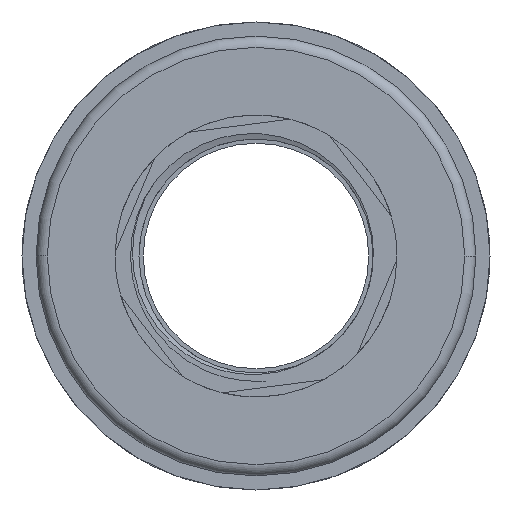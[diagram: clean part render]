
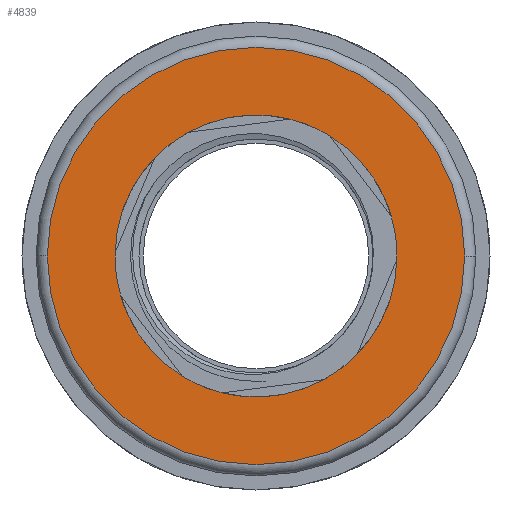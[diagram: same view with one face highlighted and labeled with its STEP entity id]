
A CAD part, left-side view. The second image highlights one B-rep face of the part: STEP entity #4839.
In plain terms, the highlighted planar face has unit normal (-1, 0, 0).
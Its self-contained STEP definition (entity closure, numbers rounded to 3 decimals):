
#12 = FACE_BOUND ( 'NONE', #1161, .T. ) ;
#57 = CIRCLE ( 'NONE', #2167, 37. ) ;
#140 = EDGE_CURVE ( 'NONE', #262, #6435, #57, .T. ) ;
#262 = VERTEX_POINT ( 'NONE', #4829 ) ;
#599 = VERTEX_POINT ( 'NONE', #4043 ) ;
#665 = DIRECTION ( 'NONE',  ( 0., -1., 0. ) ) ;
#763 = EDGE_CURVE ( 'NONE', #599, #1709, #3586, .T. ) ;
#1044 = CARTESIAN_POINT ( 'NONE',  ( 11.929, 0., 0. ) ) ;
#1046 = CIRCLE ( 'NONE', #5429, 37. ) ;
#1072 = ORIENTED_EDGE ( 'NONE', *, *, #3645, .F. ) ;
#1161 = EDGE_LOOP ( 'NONE', ( #1164, #1072 ) ) ;
#1164 = ORIENTED_EDGE ( 'NONE', *, *, #763, .F. ) ;
#1177 = ORIENTED_EDGE ( 'NONE', *, *, #1194, .T. ) ;
#1194 = EDGE_CURVE ( 'NONE', #6435, #262, #1046, .T. ) ;
#1709 = VERTEX_POINT ( 'NONE', #4064 ) ;
#2134 = CARTESIAN_POINT ( 'NONE',  ( 11.929, 0., 0. ) ) ;
#2167 = AXIS2_PLACEMENT_3D ( 'NONE', #3316, #3875, #3834 ) ;
#2636 = DIRECTION ( 'NONE',  ( -1., 0., 0. ) ) ;
#2789 = DIRECTION ( 'NONE',  ( -1., 0., 0. ) ) ;
#2837 = DIRECTION ( 'NONE',  ( -1., 0., 0. ) ) ;
#2978 = EDGE_LOOP ( 'NONE', ( #3443, #1177 ) ) ;
#3167 = DIRECTION ( 'NONE',  ( 0., -1., 0. ) ) ;
#3316 = CARTESIAN_POINT ( 'NONE',  ( 11.929, 0., 0. ) ) ;
#3361 = CARTESIAN_POINT ( 'NONE',  ( 11.929, 0., 0. ) ) ;
#3380 = CIRCLE ( 'NONE', #4003, 25. ) ;
#3443 = ORIENTED_EDGE ( 'NONE', *, *, #140, .T. ) ;
#3586 = CIRCLE ( 'NONE', #5032, 25. ) ;
#3645 = EDGE_CURVE ( 'NONE', #1709, #599, #3380, .T. ) ;
#3794 = CARTESIAN_POINT ( 'NONE',  ( 11.929, 25., 0. ) ) ;
#3834 = DIRECTION ( 'NONE',  ( 0., -1., 0. ) ) ;
#3875 = DIRECTION ( 'NONE',  ( -1., 0., 0. ) ) ;
#4003 = AXIS2_PLACEMENT_3D ( 'NONE', #3361, #2837, #665 ) ;
#4043 = CARTESIAN_POINT ( 'NONE',  ( 11.929, -25., 0. ) ) ;
#4064 = CARTESIAN_POINT ( 'NONE',  ( 11.929, 25., 0. ) ) ;
#4203 = DIRECTION ( 'NONE',  ( 0., -1., 0. ) ) ;
#4349 = DIRECTION ( 'NONE',  ( 1., 0., 0. ) ) ;
#4560 = FACE_OUTER_BOUND ( 'NONE', #2978, .T. ) ;
#4829 = CARTESIAN_POINT ( 'NONE',  ( 11.929, -37., 0. ) ) ;
#4839 = ADVANCED_FACE ( 'NONE', ( #12, #4560 ), #5463, .F. ) ;
#5032 = AXIS2_PLACEMENT_3D ( 'NONE', #1044, #2636, #3167 ) ;
#5134 = CARTESIAN_POINT ( 'NONE',  ( 11.929, 37., 0. ) ) ;
#5290 = DIRECTION ( 'NONE',  ( 0., 1., 0. ) ) ;
#5429 = AXIS2_PLACEMENT_3D ( 'NONE', #2134, #2789, #4203 ) ;
#5463 = PLANE ( 'NONE',  #6772 ) ;
#6435 = VERTEX_POINT ( 'NONE', #5134 ) ;
#6772 = AXIS2_PLACEMENT_3D ( 'NONE', #3794, #4349, #5290 ) ;
